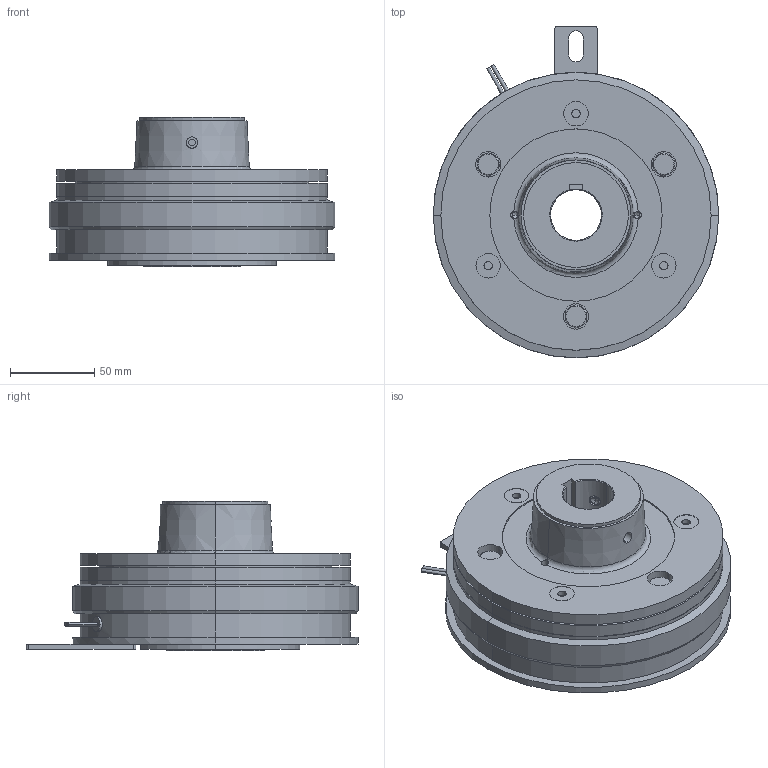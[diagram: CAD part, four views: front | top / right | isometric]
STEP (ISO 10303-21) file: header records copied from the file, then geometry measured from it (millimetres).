
FILE_DESCRIPTION (( 'STEP AP214' ), '1' );
FILE_NAME ('CS-16-31G R30DIN A30DIN.STEP', '2018-02-09T07:51:11', ( 'MIKI' ), ( '' ), 'SwSTEP 2.0', 'SolidWorks 2012', '' );
FILE_SCHEMA (( 'AUTOMOTIVE_DESIGN' ));
Length unit declared in the file: millimetre
Products named in the file (1): CS-16-31G R30DIN A30DIN
Bounding box: 169 x 196.5 x 88.5 mm (x, y, z)
Volume: 1123677.4 mm3; surface area: 151578.6 mm2
Topology: 1 solids, 5 shells, 347 faces, 776 edges, 478 vertices
Faces by surface type: plane 145, cylinder 140, cone 54, torus 8
Entity records: 13971 total; most frequent: CARTESIAN_POINT 2232, DIRECTION 1774, ORIENTED_EDGE 1528, EDGE_CURVE 764, AXIS2_PLACEMENT_3D 720, VERTEX_POINT 478, EDGE_LOOP 410, CIRCLE 372
